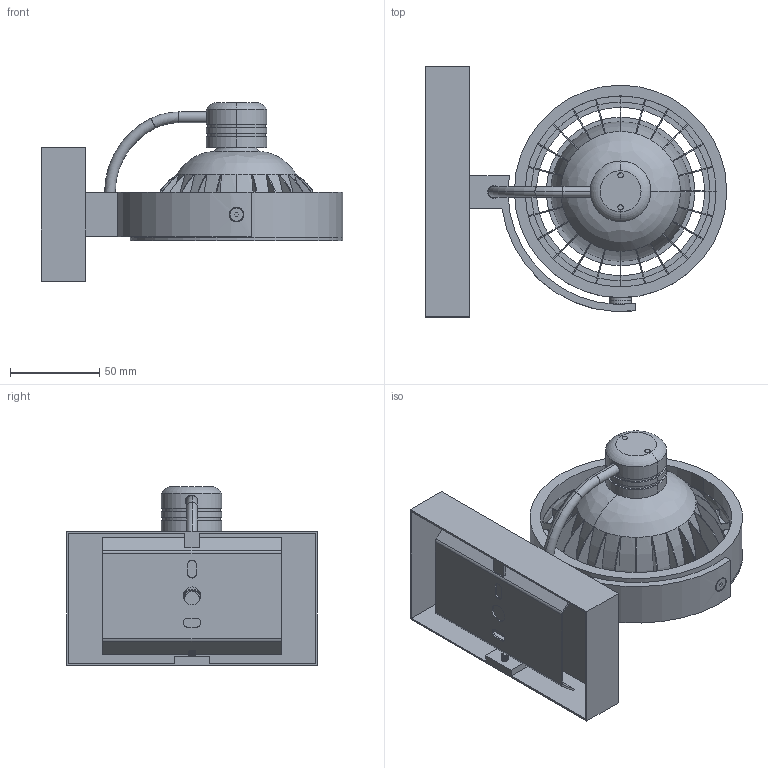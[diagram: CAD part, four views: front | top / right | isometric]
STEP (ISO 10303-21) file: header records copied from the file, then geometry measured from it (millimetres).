
FILE_DESCRIPTION((''),'2;1');
FILE_NAME('GAIHOU2GE_ASM','2022-08-09T',('Administrator'),(''),'PRO/ENGINEER BY PARAMETRIC TECHNOLOGY CORPORATION, 2014310','PRO/ENGINEER BY PARAMETRIC TECHNOLOGY CORPORATION, 2014310','');
FILE_SCHEMA(('CONFIG_CONTROL_DESIGN'));
Products named in the file (18): DENGHUAN2; AR1111; ___; TONGJIAN1; PRT0001; PRT0003; ASM0001_ASM; M4X8; GU10DENGTOU; __; DIANXIAN; M10-15_1; DIANPIAN-20X10XT1; 1130-07; M10X1NUT_1; GAIHOU2GE_ASM
Assembly tree (18 placements, depth 3):
  GAIHOU2GE_ASM
    DENGHUAN2
    AR1111
    ___  x2
    ___
    TONGJIAN1
    ASM0001_ASM
      PRT0001
      PRT0003
    M4X8
    GU10DENGTOU
    ___
    __
    DIANXIAN
    M10-15_1
    DIANPIAN-20X10XT1
    1130-07
    M10X1NUT_1
Bounding box: 168.89 x 140 x 100.08 mm (x, y, z)
Volume: 293706.7 mm3; surface area: 161627 mm2
Topology: 17 solids, 17 shells, 1012 faces, 2959 edges, 1891 vertices
Faces by surface type: cylinder 363, plane 334, bspline 229, torus 62, cone 24
Entity records: 55684 total; most frequent: CARTESIAN_POINT 30824, ORIENTED_EDGE 5798, DIRECTION 4263, EDGE_CURVE 2899, VERTEX_POINT 1883, AXIS2_PLACEMENT_3D 1608, EDGE_LOOP 1098, B_SPLINE_CURVE_WITH_KNOTS 1059
